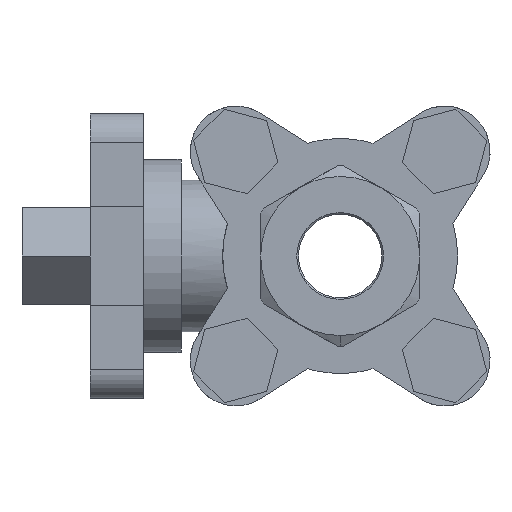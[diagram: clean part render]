
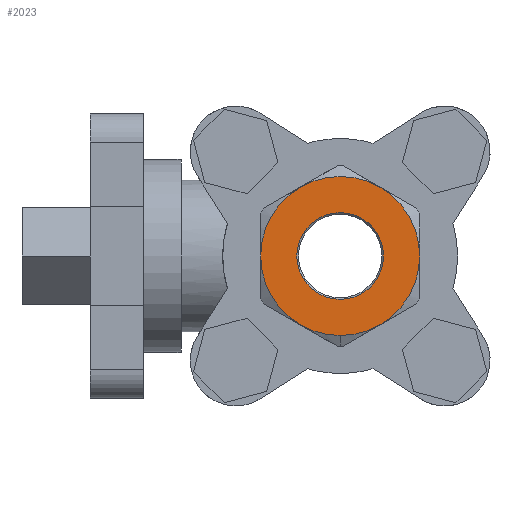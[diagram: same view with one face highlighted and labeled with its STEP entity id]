
A CAD part, left-side view. The second image highlights one B-rep face of the part: STEP entity #2023.
In plain terms, the highlighted planar face has unit normal (-1, 0, 0).
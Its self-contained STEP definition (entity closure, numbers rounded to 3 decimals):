
#95 = DIRECTION ( 'NONE',  ( 0., 0., 1. ) ) ;
#264 = DIRECTION ( 'NONE',  ( -1., 0., 0. ) ) ;
#285 = CARTESIAN_POINT ( 'NONE',  ( -24., 0., 0. ) ) ;
#351 = EDGE_CURVE ( 'NONE', #1761, #6252, #4126, .T. ) ;
#389 = EDGE_CURVE ( 'NONE', #530, #5285, #4895, .T. ) ;
#416 = ORIENTED_EDGE ( 'NONE', *, *, #6340, .T. ) ;
#445 = AXIS2_PLACEMENT_3D ( 'NONE', #5085, #1769, #5646 ) ;
#451 = ORIENTED_EDGE ( 'NONE', *, *, #389, .T. ) ;
#466 = ORIENTED_EDGE ( 'NONE', *, *, #6728, .T. ) ;
#513 = CARTESIAN_POINT ( 'NONE',  ( -24., 0., 5.725 ) ) ;
#530 = VERTEX_POINT ( 'NONE', #3140 ) ;
#633 = DIRECTION ( 'NONE',  ( 1., 0., 0. ) ) ;
#638 = EDGE_CURVE ( 'NONE', #6639, #1677, #1872, .T. ) ;
#879 = AXIS2_PLACEMENT_3D ( 'NONE', #5440, #4905, #4885 ) ;
#1048 = DIRECTION ( 'NONE',  ( -1., 0., 0. ) ) ;
#1052 = DIRECTION ( 'NONE',  ( -1., 0., 0. ) ) ;
#1123 = EDGE_LOOP ( 'NONE', ( #6209, #451, #466, #416, #6366, #5971, #6428 ) ) ;
#1566 = DIRECTION ( 'NONE',  ( -1., 0., 0. ) ) ;
#1677 = VERTEX_POINT ( 'NONE', #6562 ) ;
#1761 = VERTEX_POINT ( 'NONE', #513 ) ;
#1769 = DIRECTION ( 'NONE',  ( -1., 0., 0. ) ) ;
#1864 = AXIS2_PLACEMENT_3D ( 'NONE', #4882, #1566, #5438 ) ;
#1870 = EDGE_LOOP ( 'NONE', ( #6125, #5486 ) ) ;
#1872 = CIRCLE ( 'NONE', #6444, 10.5 ) ;
#2023 = ADVANCED_FACE ( 'NONE', ( #4350, #7102 ), #5610, .F. ) ;
#2244 = CARTESIAN_POINT ( 'NONE',  ( -24., -5.25, -9.093 ) ) ;
#2259 = CIRCLE ( 'NONE', #445, 10.5 ) ;
#2302 = CARTESIAN_POINT ( 'NONE',  ( -24., 5.725, 0. ) ) ;
#2423 = DIRECTION ( 'NONE',  ( 0., 0., 1. ) ) ;
#2684 = DIRECTION ( 'NONE',  ( -1., 0., 0. ) ) ;
#2850 = EDGE_CURVE ( 'NONE', #4631, #6878, #6854, .T. ) ;
#2925 = DIRECTION ( 'NONE',  ( -1., 0., 0. ) ) ;
#2946 = CARTESIAN_POINT ( 'NONE',  ( -24., 0., 0. ) ) ;
#3140 = CARTESIAN_POINT ( 'NONE',  ( -24., 10.5, 0. ) ) ;
#3199 = AXIS2_PLACEMENT_3D ( 'NONE', #2302, #633, #4528 ) ;
#3391 = CIRCLE ( 'NONE', #3702, 10.5 ) ;
#3433 = DIRECTION ( 'NONE',  ( -1., 0., 0. ) ) ;
#3702 = AXIS2_PLACEMENT_3D ( 'NONE', #4370, #1048, #4921 ) ;
#3754 = VERTEX_POINT ( 'NONE', #7061 ) ;
#3889 = CARTESIAN_POINT ( 'NONE',  ( -24., -5.25, 9.093 ) ) ;
#4126 = CIRCLE ( 'NONE', #6211, 5.725 ) ;
#4274 = CARTESIAN_POINT ( 'NONE',  ( -24., 0., -5.725 ) ) ;
#4350 = FACE_BOUND ( 'NONE', #1870, .T. ) ;
#4370 = CARTESIAN_POINT ( 'NONE',  ( -24., 0., 0. ) ) ;
#4378 = CARTESIAN_POINT ( 'NONE',  ( -24., 0., 0. ) ) ;
#4528 = DIRECTION ( 'NONE',  ( 0., 0., -1. ) ) ;
#4631 = VERTEX_POINT ( 'NONE', #2244 ) ;
#4882 = CARTESIAN_POINT ( 'NONE',  ( -24., 0., 0. ) ) ;
#4885 = DIRECTION ( 'NONE',  ( 0., 0., 1. ) ) ;
#4895 = CIRCLE ( 'NONE', #879, 10.5 ) ;
#4905 = DIRECTION ( 'NONE',  ( -1., 0., 0. ) ) ;
#4921 = DIRECTION ( 'NONE',  ( 0., 0., 1. ) ) ;
#4930 = DIRECTION ( 'NONE',  ( 0., 0., 1. ) ) ;
#4937 = CIRCLE ( 'NONE', #6217, 5.725 ) ;
#5085 = CARTESIAN_POINT ( 'NONE',  ( -24., 0., 0. ) ) ;
#5119 = CARTESIAN_POINT ( 'NONE',  ( -24., 5.25, -9.093 ) ) ;
#5285 = VERTEX_POINT ( 'NONE', #5119 ) ;
#5438 = DIRECTION ( 'NONE',  ( 0., 0., 1. ) ) ;
#5440 = CARTESIAN_POINT ( 'NONE',  ( -24., 0., 0. ) ) ;
#5486 = ORIENTED_EDGE ( 'NONE', *, *, #5891, .F. ) ;
#5523 = AXIS2_PLACEMENT_3D ( 'NONE', #4378, #1052, #4930 ) ;
#5610 = PLANE ( 'NONE',  #3199 ) ;
#5646 = DIRECTION ( 'NONE',  ( 0., 0., 1. ) ) ;
#5805 = CARTESIAN_POINT ( 'NONE',  ( -24., -10.5, 0. ) ) ;
#5891 = EDGE_CURVE ( 'NONE', #6252, #1761, #4937, .T. ) ;
#5971 = ORIENTED_EDGE ( 'NONE', *, *, #6300, .T. ) ;
#5999 = CARTESIAN_POINT ( 'NONE',  ( -24., 0., 0. ) ) ;
#6125 = ORIENTED_EDGE ( 'NONE', *, *, #351, .F. ) ;
#6130 = AXIS2_PLACEMENT_3D ( 'NONE', #6735, #3433, #95 ) ;
#6209 = ORIENTED_EDGE ( 'NONE', *, *, #7121, .T. ) ;
#6211 = AXIS2_PLACEMENT_3D ( 'NONE', #285, #264, #7113 ) ;
#6217 = AXIS2_PLACEMENT_3D ( 'NONE', #5999, #2684, #6548 ) ;
#6252 = VERTEX_POINT ( 'NONE', #4274 ) ;
#6300 = EDGE_CURVE ( 'NONE', #6878, #6639, #6413, .T. ) ;
#6340 = EDGE_CURVE ( 'NONE', #3754, #4631, #3391, .T. ) ;
#6366 = ORIENTED_EDGE ( 'NONE', *, *, #2850, .T. ) ;
#6413 = CIRCLE ( 'NONE', #1864, 10.5 ) ;
#6428 = ORIENTED_EDGE ( 'NONE', *, *, #638, .T. ) ;
#6444 = AXIS2_PLACEMENT_3D ( 'NONE', #2946, #2925, #2423 ) ;
#6548 = DIRECTION ( 'NONE',  ( 0., 0., 1. ) ) ;
#6562 = CARTESIAN_POINT ( 'NONE',  ( -24., 5.25, 9.093 ) ) ;
#6639 = VERTEX_POINT ( 'NONE', #3889 ) ;
#6728 = EDGE_CURVE ( 'NONE', #5285, #3754, #2259, .T. ) ;
#6735 = CARTESIAN_POINT ( 'NONE',  ( -24., 0., 0. ) ) ;
#6854 = CIRCLE ( 'NONE', #6130, 10.5 ) ;
#6878 = VERTEX_POINT ( 'NONE', #5805 ) ;
#7004 = CIRCLE ( 'NONE', #5523, 10.5 ) ;
#7061 = CARTESIAN_POINT ( 'NONE',  ( -24., 0., -10.5 ) ) ;
#7102 = FACE_OUTER_BOUND ( 'NONE', #1123, .T. ) ;
#7113 = DIRECTION ( 'NONE',  ( 0., 0., 1. ) ) ;
#7121 = EDGE_CURVE ( 'NONE', #1677, #530, #7004, .T. ) ;
